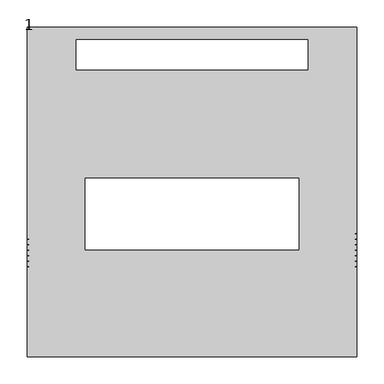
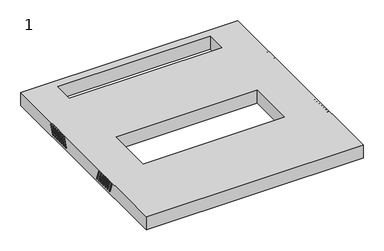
"""IFC4 building model written with IfcOpenShell, lengths in millimetres: proxy geometry, 1."""

from ifc_helpers import new_model, si_unit, frame, origin, place, context, project, spatial, polyline, circle_curve, source, transform, mapped, element, save
from ifc_brep_helpers import plane_surface, revolved_surface, advanced_brep


def proxy_1_6b43263f(model_context):
    return source(origin(), model_context, "Body", "AdvancedBrep", [
        advanced_brep(
        [(298.0, -135.8, 610.7479679), (298.0, -126.9074763, 586.3159597), (298.0, -123.1487058, 587.6840403), (298.0, -132.0412295, 612.1160484), (298.0, -125.8, 610.7479679), (298.0, -116.9074763, 586.3159597), (298.0, -113.1487058, 587.6840403), (298.0, -122.0412295, 612.1160484), (298.0, -115.8, 610.7479679), (298.0, -106.9074763, 586.3159597), (298.0, -103.1487058, 587.6840403), (298.0, -112.0412295, 612.1160484), (298.0, -105.8, 610.7479679), (298.0, -96.9074763, 586.3159597), (298.0, -93.1487058, 587.6840403), (298.0, -102.0412295, 612.1160484), (298.0, -95.8, 610.7479679), (298.0, -86.9074763, 586.3159597), (298.0, -83.1487058, 587.6840403), (298.0, -92.0412295, 612.1160484), (298.0, -85.8, 610.7479679), (298.0, -76.9074763, 586.3159597), (298.0, -73.1487058, 587.6840403), (298.0, -82.0412295, 612.1160484), (298.0, -75.8, 610.7479679), (298.0, -66.9074763, 586.3159597), (298.0, -63.1487058, 587.6840403), (298.0, -72.0412295, 612.1160484), (300.0, -132.0412295, 612.1160484), (300.0, -135.8, 610.7479679), (300.0, -123.1487058, 587.6840403), (300.0, -126.9074763, 586.3159597), (300.0, -122.0412295, 612.1160484), (300.0, -125.8, 610.7479679), (300.0, -113.1487058, 587.6840403), (300.0, -116.9074763, 586.3159597), (300.0, -112.0412295, 612.1160484), (300.0, -115.8, 610.7479679), (300.0, -103.1487058, 587.6840403), (300.0, -106.9074763, 586.3159597), (300.0, -102.0412295, 612.1160484), (300.0, -105.8, 610.7479679), (300.0, -93.1487058, 587.6840403), (300.0, -96.9074763, 586.3159597), (300.0, -92.0412295, 612.1160484), (300.0, -95.8, 610.7479679), (300.0, -83.1487058, 587.6840403), (300.0, -86.9074763, 586.3159597), (300.0, -82.0412295, 612.1160484), (300.0, -85.8, 610.7479679), (300.0, -73.1487058, 587.6840403), (300.0, -76.9074763, 586.3159597), (300.0, -72.0412295, 612.1160484), (300.0, -75.8, 610.7479679), (300.0, -63.1487058, 587.6840403), (300.0, -66.9074763, 586.3159597), (300.0, 300.0, 579.0), (300.0, -300.0, 579.0), (-300.0, -300.0, 579.0), (-300.0, 300.0, 579.0), (-211.0, 222.5, 579.0), (211.0, 222.5, 579.0), (211.0, 277.5, 579.0), (-211.0, 277.5, 579.0), (195.0, 25.0, 579.0), (-195.0, 25.0, 579.0), (-195.0, -105.0, 579.0), (195.0, -105.0, 579.0), (300.0, 300.0, 617.0), (-300.0, 300.0, 617.0), (-300.0, -300.0, 617.0), (300.0, -300.0, 617.0), (-211.0, 222.5, 617.0), (-211.0, 277.5, 617.0), (211.0, 277.5, 617.0), (211.0, 222.5, 617.0), (195.0, 25.0, 617.0), (195.0, -105.0, 617.0), (-195.0, -105.0, 617.0), (-195.0, 25.0, 617.0), (-300.0, -66.9074763, 586.3159597), (-300.0, -63.1487058, 587.6840403), (-300.0, -72.0412295, 612.1160484), (-300.0, -75.8, 610.7479679), (-300.0, -76.9074763, 586.3159597), (-300.0, -73.1487058, 587.6840403), (-300.0, -82.0412295, 612.1160484), (-300.0, -85.8, 610.7479679), (-300.0, -86.9074763, 586.3159597), (-300.0, -83.1487058, 587.6840403), (-300.0, -92.0412295, 612.1160484), (-300.0, -95.8, 610.7479679), (-300.0, -96.9074763, 586.3159597), (-300.0, -93.1487058, 587.6840403), (-300.0, -102.0412295, 612.1160484), (-300.0, -105.8, 610.7479679), (-300.0, -106.9074763, 586.3159597), (-300.0, -103.1487058, 587.6840403), (-300.0, -112.0412295, 612.1160484), (-300.0, -115.8, 610.7479679), (-300.0, -116.9074763, 586.3159597), (-300.0, -113.1487058, 587.6840403), (-300.0, -122.0412295, 612.1160484), (-300.0, -125.8, 610.7479679), (-300.0, -126.9074763, 586.3159597), (-300.0, -123.1487058, 587.6840403), (-300.0, -132.0412295, 612.1160484), (-300.0, -135.8, 610.7479679), (-300.0, 96.0, 610.7479679), (-300.0, 92.2412295, 612.1160484), (-300.0, 83.3487058, 587.6840403), (-300.0, 87.1074763, 586.3159597), (-300.0, 106.0, 610.7479679), (-300.0, 102.2412295, 612.1160484), (-300.0, 93.3487058, 587.6840403), (-300.0, 97.1074763, 586.3159597), (-300.0, 116.0, 610.7479679), (-300.0, 112.2412295, 612.1160484), (-300.0, 103.3487058, 587.6840403), (-300.0, 107.1074763, 586.3159597), (-300.0, 126.0, 610.7479679), (-300.0, 122.2412295, 612.1160484), (-300.0, 113.3487058, 587.6840403), (-300.0, 117.1074763, 586.3159597), (-300.0, 136.0, 610.7479679), (-300.0, 132.2412295, 612.1160484), (-300.0, 123.3487058, 587.6840403), (-300.0, 127.1074763, 586.3159597), (-300.0, 146.0, 610.7479679), (-300.0, 142.2412295, 612.1160484), (-300.0, 133.3487058, 587.6840403), (-300.0, 137.1074763, 586.3159597), (-300.0, 156.0, 610.7479679), (-300.0, 152.2412295, 612.1160484), (-300.0, 143.3487058, 587.6840403), (-300.0, 147.1074763, 586.3159597), (300.0, 152.2412295, 612.1160484), (300.0, 156.0, 610.7479679), (300.0, 147.1074763, 586.3159597), (300.0, 143.3487058, 587.6840403), (300.0, 142.2412295, 612.1160484), (300.0, 146.0, 610.7479679), (300.0, 137.1074763, 586.3159597), (300.0, 133.3487058, 587.6840403), (300.0, 132.2412295, 612.1160484), (300.0, 136.0, 610.7479679), (300.0, 127.1074763, 586.3159597), (300.0, 123.3487058, 587.6840403), (300.0, 122.2412295, 612.1160484), (300.0, 126.0, 610.7479679), (300.0, 117.1074763, 586.3159597), (300.0, 113.3487058, 587.6840403), (300.0, 112.2412295, 612.1160484), (300.0, 116.0, 610.7479679), (300.0, 107.1074763, 586.3159597), (300.0, 103.3487058, 587.6840403), (300.0, 102.2412295, 612.1160484), (300.0, 106.0, 610.7479679), (300.0, 97.1074763, 586.3159597), (300.0, 93.3487058, 587.6840403), (300.0, 92.2412295, 612.1160484), (300.0, 96.0, 610.7479679), (300.0, 87.1074763, 586.3159597), (300.0, 83.3487058, 587.6840403), (298.0, 156.0, 610.7479679), (298.0, 152.2412295, 612.1160484), (298.0, 143.3487058, 587.6840403), (298.0, 147.1074763, 586.3159597), (298.0, 146.0, 610.7479679), (298.0, 142.2412295, 612.1160484), (298.0, 133.3487058, 587.6840403), (298.0, 137.1074763, 586.3159597), (298.0, 136.0, 610.7479679), (298.0, 132.2412295, 612.1160484), (298.0, 123.3487058, 587.6840403), (298.0, 127.1074763, 586.3159597), (298.0, 126.0, 610.7479679), (298.0, 122.2412295, 612.1160484), (298.0, 113.3487058, 587.6840403), (298.0, 117.1074763, 586.3159597), (298.0, 116.0, 610.7479679), (298.0, 112.2412295, 612.1160484), (298.0, 103.3487058, 587.6840403), (298.0, 107.1074763, 586.3159597), (298.0, 106.0, 610.7479679), (298.0, 102.2412295, 612.1160484), (298.0, 93.3487058, 587.6840403), (298.0, 97.1074763, 586.3159597), (298.0, 96.0, 610.7479679), (298.0, 92.2412295, 612.1160484), (298.0, 83.3487058, 587.6840403), (298.0, 87.1074763, 586.3159597), (-298.0, -63.1487058, 587.6840403), (-298.0, -66.9074763, 586.3159597), (-298.0, -75.8, 610.7479679), (-298.0, -72.0412295, 612.1160484), (-298.0, -73.1487058, 587.6840403), (-298.0, -76.9074763, 586.3159597), (-298.0, -85.8, 610.7479679), (-298.0, -82.0412295, 612.1160484), (-298.0, -83.1487058, 587.6840403), (-298.0, -86.9074763, 586.3159597), (-298.0, -95.8, 610.7479679), (-298.0, -92.0412295, 612.1160484), (-298.0, -93.1487058, 587.6840403), (-298.0, -96.9074763, 586.3159597), (-298.0, -105.8, 610.7479679), (-298.0, -102.0412295, 612.1160484), (-298.0, -103.1487058, 587.6840403), (-298.0, -106.9074763, 586.3159597), (-298.0, -115.8, 610.7479679), (-298.0, -112.0412295, 612.1160484), (-298.0, -113.1487058, 587.6840403), (-298.0, -116.9074763, 586.3159597), (-298.0, -125.8, 610.7479679), (-298.0, -122.0412295, 612.1160484), (-298.0, -123.1487058, 587.6840403), (-298.0, -126.9074763, 586.3159597), (-298.0, -135.8, 610.7479679), (-298.0, -132.0412295, 612.1160484), (-298.0, 92.2412295, 612.1160484), (-298.0, 96.0, 610.7479679), (-298.0, 87.1074763, 586.3159597), (-298.0, 83.3487058, 587.6840403), (-298.0, 102.2412295, 612.1160484), (-298.0, 106.0, 610.7479679), (-298.0, 97.1074763, 586.3159597), (-298.0, 93.3487058, 587.6840403), (-298.0, 112.2412295, 612.1160484), (-298.0, 116.0, 610.7479679), (-298.0, 107.1074763, 586.3159597), (-298.0, 103.3487058, 587.6840403), (-298.0, 122.2412295, 612.1160484), (-298.0, 126.0, 610.7479679), (-298.0, 117.1074763, 586.3159597), (-298.0, 113.3487058, 587.6840403), (-298.0, 132.2412295, 612.1160484), (-298.0, 136.0, 610.7479679), (-298.0, 127.1074763, 586.3159597), (-298.0, 123.3487058, 587.6840403), (-298.0, 142.2412295, 612.1160484), (-298.0, 146.0, 610.7479679), (-298.0, 137.1074763, 586.3159597), (-298.0, 133.3487058, 587.6840403), (-298.0, 152.2412295, 612.1160484), (-298.0, 156.0, 610.7479679), (-298.0, 147.1074763, 586.3159597), (-298.0, 143.3487058, 587.6840403)],
        [
            (0, 1),
            (1, 2, circle_curve(frame((298.0, -125.028091, 587.0), z_axis=(1.0, 0.0, 0.0), x_axis=(0.0, -1.0, 0.0)), 2.0)),
            (2, 3),
            (3, 0, circle_curve(frame((298.0, -133.9206148, 611.4320081), z_axis=(1.0, 0.0, 0.0), x_axis=(0.0, -1.0, 0.0)), 2.0)),
            (4, 5),
            (5, 6, circle_curve(frame((298.0, -115.028091, 587.0), z_axis=(1.0, 0.0, 0.0), x_axis=(0.0, -1.0, 0.0)), 2.0)),
            (6, 7),
            (7, 4, circle_curve(frame((298.0, -123.9206148, 611.4320081), z_axis=(1.0, 0.0, 0.0), x_axis=(0.0, -1.0, 0.0)), 2.0)),
            (8, 9),
            (9, 10, circle_curve(frame((298.0, -105.028091, 587.0), z_axis=(1.0, 0.0, 0.0), x_axis=(0.0, -1.0, 0.0)), 2.0)),
            (10, 11),
            (11, 8, circle_curve(frame((298.0, -113.9206148, 611.4320081), z_axis=(1.0, 0.0, 0.0), x_axis=(0.0, -1.0, 0.0)), 2.0)),
            (12, 13),
            (13, 14, circle_curve(frame((298.0, -95.028091, 587.0), z_axis=(1.0, 0.0, 0.0), x_axis=(0.0, -1.0, 0.0)), 2.0)),
            (14, 15),
            (15, 12, circle_curve(frame((298.0, -103.9206148, 611.4320081), z_axis=(1.0, 0.0, 0.0), x_axis=(0.0, -1.0, 0.0)), 2.0)),
            (16, 17),
            (17, 18, circle_curve(frame((298.0, -85.028091, 587.0), z_axis=(1.0, 0.0, 0.0), x_axis=(0.0, -1.0, 0.0)), 2.0)),
            (18, 19),
            (19, 16, circle_curve(frame((298.0, -93.9206148, 611.4320081), z_axis=(1.0, 0.0, 0.0), x_axis=(0.0, -1.0, 0.0)), 2.0)),
            (20, 21),
            (21, 22, circle_curve(frame((298.0, -75.028091, 587.0), z_axis=(1.0, 0.0, 0.0), x_axis=(0.0, -1.0, 0.0)), 2.0)),
            (22, 23),
            (23, 20, circle_curve(frame((298.0, -83.9206148, 611.4320081), z_axis=(1.0, 0.0, 0.0), x_axis=(0.0, -1.0, 0.0)), 2.0)),
            (24, 25),
            (25, 26, circle_curve(frame((298.0, -65.028091, 587.0), z_axis=(1.0, 0.0, 0.0), x_axis=(0.0, -1.0, 0.0)), 2.0)),
            (26, 27),
            (27, 24, circle_curve(frame((298.0, -73.9206148, 611.4320081), z_axis=(1.0, 0.0, 0.0), x_axis=(0.0, -1.0, 0.0)), 2.0)),
            (3, 28),
            (28, 29, circle_curve(frame((300.0, -133.9206148, 611.4320081), z_axis=(1.0, 0.0, 0.0), x_axis=(0.0, -1.0, 0.0)), 2.0)),
            (29, 0),
            (2, 30),
            (30, 28),
            (1, 31),
            (31, 30, circle_curve(frame((300.0, -125.028091, 587.0), z_axis=(1.0, 0.0, 0.0), x_axis=(0.0, -1.0, 0.0)), 2.0)),
            (29, 31),
            (7, 32),
            (32, 33, circle_curve(frame((300.0, -123.9206148, 611.4320081), z_axis=(1.0, 0.0, 0.0), x_axis=(0.0, -1.0, 0.0)), 2.0)),
            (33, 4),
            (6, 34),
            (34, 32),
            (5, 35),
            (35, 34, circle_curve(frame((300.0, -115.028091, 587.0), z_axis=(1.0, 0.0, 0.0), x_axis=(0.0, -1.0, 0.0)), 2.0)),
            (33, 35),
            (11, 36),
            (36, 37, circle_curve(frame((300.0, -113.9206148, 611.4320081), z_axis=(1.0, 0.0, 0.0), x_axis=(0.0, -1.0, 0.0)), 2.0)),
            (37, 8),
            (10, 38),
            (38, 36),
            (9, 39),
            (39, 38, circle_curve(frame((300.0, -105.028091, 587.0), z_axis=(1.0, 0.0, 0.0), x_axis=(0.0, -1.0, 0.0)), 2.0)),
            (37, 39),
            (15, 40),
            (40, 41, circle_curve(frame((300.0, -103.9206148, 611.4320081), z_axis=(1.0, 0.0, 0.0), x_axis=(0.0, -1.0, 0.0)), 2.0)),
            (41, 12),
            (14, 42),
            (42, 40),
            (13, 43),
            (43, 42, circle_curve(frame((300.0, -95.028091, 587.0), z_axis=(1.0, 0.0, 0.0), x_axis=(0.0, -1.0, 0.0)), 2.0)),
            (41, 43),
            (19, 44),
            (44, 45, circle_curve(frame((300.0, -93.9206148, 611.4320081), z_axis=(1.0, 0.0, 0.0), x_axis=(0.0, -1.0, 0.0)), 2.0)),
            (45, 16),
            (18, 46),
            (46, 44),
            (17, 47),
            (47, 46, circle_curve(frame((300.0, -85.028091, 587.0), z_axis=(1.0, 0.0, 0.0), x_axis=(0.0, -1.0, 0.0)), 2.0)),
            (45, 47),
            (23, 48),
            (48, 49, circle_curve(frame((300.0, -83.9206148, 611.4320081), z_axis=(1.0, 0.0, 0.0), x_axis=(0.0, -1.0, 0.0)), 2.0)),
            (49, 20),
            (22, 50),
            (50, 48),
            (21, 51),
            (51, 50, circle_curve(frame((300.0, -75.028091, 587.0), z_axis=(1.0, 0.0, 0.0), x_axis=(0.0, -1.0, 0.0)), 2.0)),
            (49, 51),
            (27, 52),
            (52, 53, circle_curve(frame((300.0, -73.9206148, 611.4320081), z_axis=(1.0, 0.0, 0.0), x_axis=(0.0, -1.0, 0.0)), 2.0)),
            (53, 24),
            (26, 54),
            (54, 52),
            (25, 55),
            (55, 54, circle_curve(frame((300.0, -65.028091, 587.0), z_axis=(1.0, 0.0, 0.0), x_axis=(0.0, -1.0, 0.0)), 2.0)),
            (53, 55),
            (56, 57),
            (57, 58),
            (58, 59),
            (59, 56),
            (60, 61),
            (61, 62),
            (62, 63),
            (63, 60),
            (64, 65),
            (65, 66),
            (66, 67),
            (67, 64),
            (68, 69),
            (69, 70),
            (70, 71),
            (71, 68),
            (72, 73),
            (73, 74),
            (74, 75),
            (75, 72),
            (76, 77),
            (77, 78),
            (78, 79),
            (79, 76),
            (59, 69),
            (68, 56),
            (58, 70),
            (80, 81, circle_curve(frame((-300.0, -65.028091, 587.0), z_axis=(1.0, 0.0, 0.0), x_axis=(0.0, 1.0, 0.0)), 2.0)),
            (81, 82),
            (82, 83, circle_curve(frame((-300.0, -73.9206148, 611.4320081), z_axis=(1.0, 0.0, 0.0), x_axis=(0.0, 1.0, 0.0)), 2.0)),
            (83, 80),
            (84, 85, circle_curve(frame((-300.0, -75.028091, 587.0), z_axis=(1.0, 0.0, 0.0), x_axis=(0.0, 1.0, 0.0)), 2.0)),
            (85, 86),
            (86, 87, circle_curve(frame((-300.0, -83.9206148, 611.4320081), z_axis=(1.0, 0.0, 0.0), x_axis=(0.0, 1.0, 0.0)), 2.0)),
            (87, 84),
            (88, 89, circle_curve(frame((-300.0, -85.028091, 587.0), z_axis=(1.0, 0.0, 0.0), x_axis=(0.0, 1.0, 0.0)), 2.0)),
            (89, 90),
            (90, 91, circle_curve(frame((-300.0, -93.9206148, 611.4320081), z_axis=(1.0, 0.0, 0.0), x_axis=(0.0, 1.0, 0.0)), 2.0)),
            (91, 88),
            (92, 93, circle_curve(frame((-300.0, -95.028091, 587.0), z_axis=(1.0, 0.0, 0.0), x_axis=(0.0, 1.0, 0.0)), 2.0)),
            (93, 94),
            (94, 95, circle_curve(frame((-300.0, -103.9206148, 611.4320081), z_axis=(1.0, 0.0, 0.0), x_axis=(0.0, 1.0, 0.0)), 2.0)),
            (95, 92),
            (96, 97, circle_curve(frame((-300.0, -105.028091, 587.0), z_axis=(1.0, 0.0, 0.0), x_axis=(0.0, 1.0, 0.0)), 2.0)),
            (97, 98),
            (98, 99, circle_curve(frame((-300.0, -113.9206148, 611.4320081), z_axis=(1.0, 0.0, 0.0), x_axis=(0.0, 1.0, 0.0)), 2.0)),
            (99, 96),
            (100, 101, circle_curve(frame((-300.0, -115.028091, 587.0), z_axis=(1.0, 0.0, 0.0), x_axis=(0.0, 1.0, 0.0)), 2.0)),
            (101, 102),
            (102, 103, circle_curve(frame((-300.0, -123.9206148, 611.4320081), z_axis=(1.0, 0.0, 0.0), x_axis=(0.0, 1.0, 0.0)), 2.0)),
            (103, 100),
            (104, 105, circle_curve(frame((-300.0, -125.028091, 587.0), z_axis=(1.0, 0.0, 0.0), x_axis=(0.0, 1.0, 0.0)), 2.0)),
            (105, 106),
            (106, 107, circle_curve(frame((-300.0, -133.9206148, 611.4320081), z_axis=(1.0, 0.0, 0.0), x_axis=(0.0, 1.0, 0.0)), 2.0)),
            (107, 104),
            (108, 109, circle_curve(frame((-300.0, 94.1206148, 611.4320081), z_axis=(1.0, 0.0, 0.0), x_axis=(0.0, 1.0, 0.0)), 2.0)),
            (109, 110),
            (110, 111, circle_curve(frame((-300.0, 85.228091, 587.0), z_axis=(1.0, 0.0, 0.0), x_axis=(0.0, 1.0, 0.0)), 2.0)),
            (111, 108),
            (112, 113, circle_curve(frame((-300.0, 104.1206148, 611.4320081), z_axis=(1.0, 0.0, 0.0), x_axis=(0.0, 1.0, 0.0)), 2.0)),
            (113, 114),
            (114, 115, circle_curve(frame((-300.0, 95.228091, 587.0), z_axis=(1.0, 0.0, 0.0), x_axis=(0.0, 1.0, 0.0)), 2.0)),
            (115, 112),
            (116, 117, circle_curve(frame((-300.0, 114.1206148, 611.4320081), z_axis=(1.0, 0.0, 0.0), x_axis=(0.0, 1.0, 0.0)), 2.0)),
            (117, 118),
            (118, 119, circle_curve(frame((-300.0, 105.228091, 587.0), z_axis=(1.0, 0.0, 0.0), x_axis=(0.0, 1.0, 0.0)), 2.0)),
            (119, 116),
            (120, 121, circle_curve(frame((-300.0, 124.1206148, 611.4320081), z_axis=(1.0, 0.0, 0.0), x_axis=(0.0, 1.0, 0.0)), 2.0)),
            (121, 122),
            (122, 123, circle_curve(frame((-300.0, 115.228091, 587.0), z_axis=(1.0, 0.0, 0.0), x_axis=(0.0, 1.0, 0.0)), 2.0)),
            (123, 120),
            (124, 125, circle_curve(frame((-300.0, 134.1206148, 611.4320081), z_axis=(1.0, 0.0, 0.0), x_axis=(0.0, 1.0, 0.0)), 2.0)),
            (125, 126),
            (126, 127, circle_curve(frame((-300.0, 125.228091, 587.0), z_axis=(1.0, 0.0, 0.0), x_axis=(0.0, 1.0, 0.0)), 2.0)),
            (127, 124),
            (128, 129, circle_curve(frame((-300.0, 144.1206148, 611.4320081), z_axis=(1.0, 0.0, 0.0), x_axis=(0.0, 1.0, 0.0)), 2.0)),
            (129, 130),
            (130, 131, circle_curve(frame((-300.0, 135.228091, 587.0), z_axis=(1.0, 0.0, 0.0), x_axis=(0.0, 1.0, 0.0)), 2.0)),
            (131, 128),
            (132, 133, circle_curve(frame((-300.0, 154.1206148, 611.4320081), z_axis=(1.0, 0.0, 0.0), x_axis=(0.0, 1.0, 0.0)), 2.0)),
            (133, 134),
            (134, 135, circle_curve(frame((-300.0, 145.228091, 587.0), z_axis=(1.0, 0.0, 0.0), x_axis=(0.0, 1.0, 0.0)), 2.0)),
            (135, 132),
            (57, 71),
            (136, 137, circle_curve(frame((300.0, 154.1206148, 611.4320081), z_axis=(-1.0, 0.0, 0.0), x_axis=(0.0, 1.0, 0.0)), 2.0)),
            (137, 138),
            (138, 139, circle_curve(frame((300.0, 145.228091, 587.0), z_axis=(-1.0, 0.0, 0.0), x_axis=(0.0, 1.0, 0.0)), 2.0)),
            (139, 136),
            (140, 141, circle_curve(frame((300.0, 144.1206148, 611.4320081), z_axis=(-1.0, 0.0, 0.0), x_axis=(0.0, 1.0, 0.0)), 2.0)),
            (141, 142),
            (142, 143, circle_curve(frame((300.0, 135.228091, 587.0), z_axis=(-1.0, 0.0, 0.0), x_axis=(0.0, 1.0, 0.0)), 2.0)),
            (143, 140),
            (144, 145, circle_curve(frame((300.0, 134.1206148, 611.4320081), z_axis=(-1.0, 0.0, 0.0), x_axis=(0.0, 1.0, 0.0)), 2.0)),
            (145, 146),
            (146, 147, circle_curve(frame((300.0, 125.228091, 587.0), z_axis=(-1.0, 0.0, 0.0), x_axis=(0.0, 1.0, 0.0)), 2.0)),
            (147, 144),
            (148, 149, circle_curve(frame((300.0, 124.1206148, 611.4320081), z_axis=(-1.0, 0.0, 0.0), x_axis=(0.0, 1.0, 0.0)), 2.0)),
            (149, 150),
            (150, 151, circle_curve(frame((300.0, 115.228091, 587.0), z_axis=(-1.0, 0.0, 0.0), x_axis=(0.0, 1.0, 0.0)), 2.0)),
            (151, 148),
            (152, 153, circle_curve(frame((300.0, 114.1206148, 611.4320081), z_axis=(-1.0, 0.0, 0.0), x_axis=(0.0, 1.0, 0.0)), 2.0)),
            (153, 154),
            (154, 155, circle_curve(frame((300.0, 105.228091, 587.0), z_axis=(-1.0, 0.0, 0.0), x_axis=(0.0, 1.0, 0.0)), 2.0)),
            (155, 152),
            (156, 157, circle_curve(frame((300.0, 104.1206148, 611.4320081), z_axis=(-1.0, 0.0, 0.0), x_axis=(0.0, 1.0, 0.0)), 2.0)),
            (157, 158),
            (158, 159, circle_curve(frame((300.0, 95.228091, 587.0), z_axis=(-1.0, 0.0, 0.0), x_axis=(0.0, 1.0, 0.0)), 2.0)),
            (159, 156),
            (160, 161, circle_curve(frame((300.0, 94.1206148, 611.4320081), z_axis=(-1.0, 0.0, 0.0), x_axis=(0.0, 1.0, 0.0)), 2.0)),
            (161, 162),
            (162, 163, circle_curve(frame((300.0, 85.228091, 587.0), z_axis=(-1.0, 0.0, 0.0), x_axis=(0.0, 1.0, 0.0)), 2.0)),
            (163, 160),
            (63, 73),
            (72, 60),
            (62, 74),
            (61, 75),
            (67, 77),
            (76, 64),
            (66, 78),
            (65, 79),
            (164, 165, circle_curve(frame((298.0, 154.1206148, 611.4320081), z_axis=(1.0, 0.0, 0.0), x_axis=(0.0, 1.0, 0.0)), 2.0)),
            (165, 166),
            (166, 167, circle_curve(frame((298.0, 145.228091, 587.0), z_axis=(1.0, 0.0, 0.0), x_axis=(0.0, 1.0, 0.0)), 2.0)),
            (167, 164),
            (168, 169, circle_curve(frame((298.0, 144.1206148, 611.4320081), z_axis=(1.0, 0.0, 0.0), x_axis=(0.0, 1.0, 0.0)), 2.0)),
            (169, 170),
            (170, 171, circle_curve(frame((298.0, 135.228091, 587.0), z_axis=(1.0, 0.0, 0.0), x_axis=(0.0, 1.0, 0.0)), 2.0)),
            (171, 168),
            (172, 173, circle_curve(frame((298.0, 134.1206148, 611.4320081), z_axis=(1.0, 0.0, 0.0), x_axis=(0.0, 1.0, 0.0)), 2.0)),
            (173, 174),
            (174, 175, circle_curve(frame((298.0, 125.228091, 587.0), z_axis=(1.0, 0.0, 0.0), x_axis=(0.0, 1.0, 0.0)), 2.0)),
            (175, 172),
            (176, 177, circle_curve(frame((298.0, 124.1206148, 611.4320081), z_axis=(1.0, 0.0, 0.0), x_axis=(0.0, 1.0, 0.0)), 2.0)),
            (177, 178),
            (178, 179, circle_curve(frame((298.0, 115.228091, 587.0), z_axis=(1.0, 0.0, 0.0), x_axis=(0.0, 1.0, 0.0)), 2.0)),
            (179, 176),
            (180, 181, circle_curve(frame((298.0, 114.1206148, 611.4320081), z_axis=(1.0, 0.0, 0.0), x_axis=(0.0, 1.0, 0.0)), 2.0)),
            (181, 182),
            (182, 183, circle_curve(frame((298.0, 105.228091, 587.0), z_axis=(1.0, 0.0, 0.0), x_axis=(0.0, 1.0, 0.0)), 2.0)),
            (183, 180),
            (184, 185, circle_curve(frame((298.0, 104.1206148, 611.4320081), z_axis=(1.0, 0.0, 0.0), x_axis=(0.0, 1.0, 0.0)), 2.0)),
            (185, 186),
            (186, 187, circle_curve(frame((298.0, 95.228091, 587.0), z_axis=(1.0, 0.0, 0.0), x_axis=(0.0, 1.0, 0.0)), 2.0)),
            (187, 184),
            (188, 189, circle_curve(frame((298.0, 94.1206148, 611.4320081), z_axis=(1.0, 0.0, 0.0), x_axis=(0.0, 1.0, 0.0)), 2.0)),
            (189, 190),
            (190, 191, circle_curve(frame((298.0, 85.228091, 587.0), z_axis=(1.0, 0.0, 0.0), x_axis=(0.0, 1.0, 0.0)), 2.0)),
            (191, 188),
            (164, 137),
            (136, 165),
            (139, 166),
            (138, 167),
            (168, 141),
            (140, 169),
            (143, 170),
            (142, 171),
            (172, 145),
            (144, 173),
            (147, 174),
            (146, 175),
            (176, 149),
            (148, 177),
            (151, 178),
            (150, 179),
            (180, 153),
            (152, 181),
            (155, 182),
            (154, 183),
            (184, 157),
            (156, 185),
            (159, 186),
            (158, 187),
            (188, 161),
            (160, 189),
            (163, 190),
            (162, 191),
            (192, 193, circle_curve(frame((-298.0, -65.028091, 587.0), z_axis=(-1.0, 0.0, 0.0), x_axis=(0.0, 1.0, 0.0)), 2.0)),
            (193, 194),
            (194, 195, circle_curve(frame((-298.0, -73.9206148, 611.4320081), z_axis=(-1.0, 0.0, 0.0), x_axis=(0.0, 1.0, 0.0)), 2.0)),
            (195, 192),
            (196, 197, circle_curve(frame((-298.0, -75.028091, 587.0), z_axis=(-1.0, 0.0, 0.0), x_axis=(0.0, 1.0, 0.0)), 2.0)),
            (197, 198),
            (198, 199, circle_curve(frame((-298.0, -83.9206148, 611.4320081), z_axis=(-1.0, 0.0, 0.0), x_axis=(0.0, 1.0, 0.0)), 2.0)),
            (199, 196),
            (200, 201, circle_curve(frame((-298.0, -85.028091, 587.0), z_axis=(-1.0, 0.0, 0.0), x_axis=(0.0, 1.0, 0.0)), 2.0)),
            (201, 202),
            (202, 203, circle_curve(frame((-298.0, -93.9206148, 611.4320081), z_axis=(-1.0, 0.0, 0.0), x_axis=(0.0, 1.0, 0.0)), 2.0)),
            (203, 200),
            (204, 205, circle_curve(frame((-298.0, -95.028091, 587.0), z_axis=(-1.0, 0.0, 0.0), x_axis=(0.0, 1.0, 0.0)), 2.0)),
            (205, 206),
            (206, 207, circle_curve(frame((-298.0, -103.9206148, 611.4320081), z_axis=(-1.0, 0.0, 0.0), x_axis=(0.0, 1.0, 0.0)), 2.0)),
            (207, 204),
            (208, 209, circle_curve(frame((-298.0, -105.028091, 587.0), z_axis=(-1.0, 0.0, 0.0), x_axis=(0.0, 1.0, 0.0)), 2.0)),
            (209, 210),
            (210, 211, circle_curve(frame((-298.0, -113.9206148, 611.4320081), z_axis=(-1.0, 0.0, 0.0), x_axis=(0.0, 1.0, 0.0)), 2.0)),
            (211, 208),
            (212, 213, circle_curve(frame((-298.0, -115.028091, 587.0), z_axis=(-1.0, 0.0, 0.0), x_axis=(0.0, 1.0, 0.0)), 2.0)),
            (213, 214),
            (214, 215, circle_curve(frame((-298.0, -123.9206148, 611.4320081), z_axis=(-1.0, 0.0, 0.0), x_axis=(0.0, 1.0, 0.0)), 2.0)),
            (215, 212),
            (216, 217, circle_curve(frame((-298.0, -125.028091, 587.0), z_axis=(-1.0, 0.0, 0.0), x_axis=(0.0, 1.0, 0.0)), 2.0)),
            (217, 218),
            (218, 219, circle_curve(frame((-298.0, -133.9206148, 611.4320081), z_axis=(-1.0, 0.0, 0.0), x_axis=(0.0, 1.0, 0.0)), 2.0)),
            (219, 216),
            (192, 81),
            (80, 193),
            (83, 194),
            (82, 195),
            (196, 85),
            (84, 197),
            (87, 198),
            (86, 199),
            (200, 89),
            (88, 201),
            (91, 202),
            (90, 203),
            (204, 93),
            (92, 205),
            (95, 206),
            (94, 207),
            (208, 97),
            (96, 209),
            (99, 210),
            (98, 211),
            (212, 101),
            (100, 213),
            (103, 214),
            (102, 215),
            (216, 105),
            (104, 217),
            (107, 218),
            (106, 219),
            (220, 221, circle_curve(frame((-298.0, 94.1206148, 611.4320081), z_axis=(-1.0, 0.0, 0.0), x_axis=(0.0, 1.0, 0.0)), 2.0)),
            (221, 222),
            (222, 223, circle_curve(frame((-298.0, 85.228091, 587.0), z_axis=(-1.0, 0.0, 0.0), x_axis=(0.0, 1.0, 0.0)), 2.0)),
            (223, 220),
            (224, 225, circle_curve(frame((-298.0, 104.1206148, 611.4320081), z_axis=(-1.0, 0.0, 0.0), x_axis=(0.0, 1.0, 0.0)), 2.0)),
            (225, 226),
            (226, 227, circle_curve(frame((-298.0, 95.228091, 587.0), z_axis=(-1.0, 0.0, 0.0), x_axis=(0.0, 1.0, 0.0)), 2.0)),
            (227, 224),
            (228, 229, circle_curve(frame((-298.0, 114.1206148, 611.4320081), z_axis=(-1.0, 0.0, 0.0), x_axis=(0.0, 1.0, 0.0)), 2.0)),
            (229, 230),
            (230, 231, circle_curve(frame((-298.0, 105.228091, 587.0), z_axis=(-1.0, 0.0, 0.0), x_axis=(0.0, 1.0, 0.0)), 2.0)),
            (231, 228),
            (232, 233, circle_curve(frame((-298.0, 124.1206148, 611.4320081), z_axis=(-1.0, 0.0, 0.0), x_axis=(0.0, 1.0, 0.0)), 2.0)),
            (233, 234),
            (234, 235, circle_curve(frame((-298.0, 115.228091, 587.0), z_axis=(-1.0, 0.0, 0.0), x_axis=(0.0, 1.0, 0.0)), 2.0)),
            (235, 232),
            (236, 237, circle_curve(frame((-298.0, 134.1206148, 611.4320081), z_axis=(-1.0, 0.0, 0.0), x_axis=(0.0, 1.0, 0.0)), 2.0)),
            (237, 238),
            (238, 239, circle_curve(frame((-298.0, 125.228091, 587.0), z_axis=(-1.0, 0.0, 0.0), x_axis=(0.0, 1.0, 0.0)), 2.0)),
            (239, 236),
            (240, 241, circle_curve(frame((-298.0, 144.1206148, 611.4320081), z_axis=(-1.0, 0.0, 0.0), x_axis=(0.0, 1.0, 0.0)), 2.0)),
            (241, 242),
            (242, 243, circle_curve(frame((-298.0, 135.228091, 587.0), z_axis=(-1.0, 0.0, 0.0), x_axis=(0.0, 1.0, 0.0)), 2.0)),
            (243, 240),
            (244, 245, circle_curve(frame((-298.0, 154.1206148, 611.4320081), z_axis=(-1.0, 0.0, 0.0), x_axis=(0.0, 1.0, 0.0)), 2.0)),
            (245, 246),
            (246, 247, circle_curve(frame((-298.0, 145.228091, 587.0), z_axis=(-1.0, 0.0, 0.0), x_axis=(0.0, 1.0, 0.0)), 2.0)),
            (247, 244),
            (220, 109),
            (108, 221),
            (111, 222),
            (110, 223),
            (224, 113),
            (112, 225),
            (115, 226),
            (114, 227),
            (228, 117),
            (116, 229),
            (119, 230),
            (118, 231),
            (232, 121),
            (120, 233),
            (123, 234),
            (122, 235),
            (236, 125),
            (124, 237),
            (127, 238),
            (126, 239),
            (240, 129),
            (128, 241),
            (131, 242),
            (130, 243),
            (244, 133),
            (132, 245),
            (135, 246),
            (134, 247),
        ],
        [
            plane_surface(frame((298.0, -126.9074763, 586.3159597), z_axis=(1.0, 0.0, 0.0), x_axis=(0.0, -0.3420201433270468, 0.9396926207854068))),
            revolved_surface(polyline([(300.0, -135.9206148, 611.4320081), (298.0, -135.9206148, 611.4320081)]), (298.0, -133.9206148, 611.4320081), (1.0, 0.0, 0.0)),
            plane_surface(frame((300.0, -123.1487058, 587.6840403), z_axis=(0.0, -0.9396926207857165, -0.342020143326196), x_axis=(-1.0, 0.0, 0.0))),
            revolved_surface(polyline([(300.0, -127.028091, 587.0), (298.0, -127.028091, 587.0)]), (298.0, -125.028091, 587.0), (1.0, 0.0, 0.0)),
            plane_surface(frame((300.0, -135.8, 610.7479679), z_axis=(0.0, 0.9396926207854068, 0.3420201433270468), x_axis=(-1.0, 0.0, 0.0))),
            revolved_surface(polyline([(300.0, -125.9206148, 611.4320081), (298.0, -125.9206148, 611.4320081)]), (300.0, -123.9206148, 611.4320081), (1.0, 0.0, 0.0)),
            plane_surface(frame((300.0, -113.1487058, 587.6840403), z_axis=(0.0, -0.9396926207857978, -0.3420201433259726), x_axis=(-1.0, 0.0, 0.0))),
            revolved_surface(polyline([(300.0, -117.028091, 587.0), (298.0, -117.028091, 587.0)]), (300.0, -115.028091, 587.0), (1.0, 0.0, 0.0)),
            plane_surface(frame((300.0, -125.8, 610.7479679), z_axis=(0.0, 0.9396926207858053, 0.34202014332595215), x_axis=(-1.0, 0.0, 0.0))),
            revolved_surface(polyline([(300.0, -115.9206148, 611.4320081), (298.0, -115.9206148, 611.4320081)]), (300.0, -113.9206148, 611.4320081), (1.0, 0.0, 0.0)),
            plane_surface(frame((300.0, -103.1487058, 587.6840403), z_axis=(0.0, -0.9396926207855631, -0.34202014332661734), x_axis=(-1.0, 0.0, 0.0))),
            revolved_surface(polyline([(300.0, -107.028091, 587.0), (298.0, -107.028091, 587.0)]), (300.0, -105.028091, 587.0), (1.0, 0.0, 0.0)),
            plane_surface(frame((300.0, -115.8, 610.7479679), z_axis=(0.0, 0.9396926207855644, 0.34202014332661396), x_axis=(-1.0, 0.0, 0.0))),
            revolved_surface(polyline([(300.0, -105.9206148, 611.4320081), (298.0, -105.9206148, 611.4320081)]), (300.0, -103.9206148, 611.4320081), (1.0, 0.0, 0.0)),
            plane_surface(frame((300.0, -93.1487058, 587.6840403), z_axis=(0.0, -0.9396926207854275, -0.34202014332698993), x_axis=(-1.0, 0.0, 0.0))),
            revolved_surface(polyline([(300.0, -97.028091, 587.0), (298.0, -97.028091, 587.0)]), (300.0, -95.028091, 587.0), (1.0, 0.0, 0.0)),
            plane_surface(frame((300.0, -105.8, 610.7479679), z_axis=(0.0, 0.9396926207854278, 0.34202014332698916), x_axis=(-1.0, 0.0, 0.0))),
            revolved_surface(polyline([(300.0, -95.9206148, 611.4320081), (298.0, -95.9206148, 611.4320081)]), (300.0, -93.9206148, 611.4320081), (1.0, 0.0, 0.0)),
            plane_surface(frame((300.0, -83.1487058, 587.6840403), z_axis=(0.0, -0.9396926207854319, -0.3420201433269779), x_axis=(-1.0, 0.0, 0.0))),
            revolved_surface(polyline([(300.0, -87.028091, 587.0), (298.0, -87.028091, 587.0)]), (300.0, -85.028091, 587.0), (1.0, 0.0, 0.0)),
            plane_surface(frame((300.0, -95.8, 610.7479679), z_axis=(0.0, 0.9396926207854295, 0.3420201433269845), x_axis=(-1.0, 0.0, 0.0))),
            revolved_surface(polyline([(300.0, -85.9206148, 611.4320081), (298.0, -85.9206148, 611.4320081)]), (300.0, -83.9206148, 611.4320081), (1.0, 0.0, 0.0)),
            plane_surface(frame((300.0, -73.1487058, 587.6840403), z_axis=(0.0, -0.9396926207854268, -0.342020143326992), x_axis=(-1.0, 0.0, 0.0))),
            revolved_surface(polyline([(300.0, -77.028091, 587.0), (298.0, -77.028091, 587.0)]), (300.0, -75.028091, 587.0), (1.0, 0.0, 0.0)),
            plane_surface(frame((300.0, -85.8, 610.7479679), z_axis=(0.0, 0.9396926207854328, 0.3420201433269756), x_axis=(-1.0, 0.0, 0.0))),
            revolved_surface(polyline([(300.0, -75.9206148, 611.4320081), (298.0, -75.9206148, 611.4320081)]), (300.0, -73.9206148, 611.4320081), (1.0, 0.0, 0.0)),
            plane_surface(frame((300.0, -63.1487058, 587.6840403), z_axis=(0.0, -0.9396926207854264, -0.3420201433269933), x_axis=(-1.0, 0.0, 0.0))),
            revolved_surface(polyline([(300.0, -67.028091, 587.0), (298.0, -67.028091, 587.0)]), (300.0, -65.028091, 587.0), (1.0, 0.0, 0.0)),
            plane_surface(frame((300.0, -75.8, 610.7479679), z_axis=(0.0, 0.9396926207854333, 0.342020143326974), x_axis=(-1.0, 0.0, 0.0))),
            plane_surface(frame((-300.0, 300.0, 579.0), z_axis=(0.0, 0.0, -1.0), x_axis=(1.0, 0.0, 0.0))),
            plane_surface(frame((-300.0, 300.0, 617.0), z_axis=(0.0, 0.0, 1.0), x_axis=(-1.0, 0.0, 0.0))),
            plane_surface(frame((300.0, 300.0, 617.0), z_axis=(0.0, 1.0, 0.0), x_axis=(0.0, 0.0, -1.0))),
            plane_surface(frame((-300.0, 300.0, 617.0), z_axis=(-1.0, 0.0, 0.0), x_axis=(0.0, 0.0, -1.0))),
            plane_surface(frame((-300.0, -300.0, 617.0), z_axis=(0.0, -1.0, 0.0), x_axis=(0.0, 0.0, -1.0))),
            plane_surface(frame((300.0, -300.0, 617.0), z_axis=(1.0, 0.0, 0.0), x_axis=(0.0, 0.0, -1.0))),
            plane_surface(frame((-211.0, 222.5, 617.0), z_axis=(1.0, 0.0, 0.0), x_axis=(0.0, 0.0, -1.0))),
            plane_surface(frame((-211.0, 277.5, 617.0), z_axis=(0.0, -1.0, 0.0), x_axis=(0.0, 0.0, -1.0))),
            plane_surface(frame((211.0, 277.5, 617.0), z_axis=(-1.0, 0.0, 0.0), x_axis=(0.0, 0.0, -1.0))),
            plane_surface(frame((211.0, 222.5, 617.0), z_axis=(0.0, 1.0, 0.0), x_axis=(0.0, 0.0, -1.0))),
            plane_surface(frame((195.0, 25.0, 617.0), z_axis=(-1.0, 0.0, 0.0), x_axis=(0.0, 0.0, -1.0))),
            plane_surface(frame((195.0, -105.0, 617.0), z_axis=(0.0, 1.0, 0.0), x_axis=(0.0, 0.0, -1.0))),
            plane_surface(frame((-195.0, -105.0, 617.0), z_axis=(1.0, 0.0, 0.0), x_axis=(0.0, 0.0, -1.0))),
            plane_surface(frame((-195.0, 25.0, 617.0), z_axis=(0.0, -1.0, 0.0), x_axis=(0.0, 0.0, -1.0))),
            plane_surface(frame((298.0, 156.1206148, 611.4320081), z_axis=(1.0, 0.0, 0.0), x_axis=(0.0, 0.0, -1.0))),
            revolved_surface(polyline([(300.0, 156.1206148, 611.4320081), (298.0, 156.1206148, 611.4320081)]), (298.0, 154.1206148, 611.4320081), (1.0, 0.0, 0.0)),
            plane_surface(frame((300.0, 152.2412295, 612.1160484), z_axis=(0.0, 0.9396926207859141, -0.34202014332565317), x_axis=(-1.0, 0.0, 0.0))),
            revolved_surface(polyline([(300.0, 147.228091, 587.0), (298.0, 147.228091, 587.0)]), (298.0, 145.228091, 587.0), (1.0, 0.0, 0.0)),
            plane_surface(frame((300.0, 147.1074763, 586.3159597), z_axis=(0.0, -0.9396926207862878, 0.34202014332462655), x_axis=(-1.0, 0.0, 0.0))),
            revolved_surface(polyline([(300.0, 146.1206148, 611.4320081), (298.0, 146.1206148, 611.4320081)]), (300.0, 144.1206148, 611.4320081), (1.0, 0.0, 0.0)),
            plane_surface(frame((300.0, 142.2412295, 612.1160484), z_axis=(0.0, 0.9396926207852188, -0.34202014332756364), x_axis=(-1.0, 0.0, 0.0))),
            revolved_surface(polyline([(300.0, 137.228091, 587.0), (298.0, 137.228091, 587.0)]), (300.0, 135.228091, 587.0), (1.0, 0.0, 0.0)),
            plane_surface(frame((300.0, 137.1074763, 586.3159597), z_axis=(0.0, -0.939692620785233, 0.3420201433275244), x_axis=(-1.0, 0.0, 0.0))),
            revolved_surface(polyline([(300.0, 136.1206148, 611.4320081), (298.0, 136.1206148, 611.4320081)]), (300.0, 134.1206148, 611.4320081), (1.0, 0.0, 0.0)),
            plane_surface(frame((300.0, 132.2412295, 612.1160484), z_axis=(0.0, 0.9396926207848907, -0.3420201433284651), x_axis=(-1.0, 0.0, 0.0))),
            revolved_surface(polyline([(300.0, 127.228091, 587.0), (298.0, 127.228091, 587.0)]), (300.0, 125.228091, 587.0), (1.0, 0.0, 0.0)),
            plane_surface(frame((300.0, 127.1074763, 586.3159597), z_axis=(0.0, -0.9396926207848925, 0.3420201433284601), x_axis=(-1.0, 0.0, 0.0))),
            revolved_surface(polyline([(300.0, 126.1206148, 611.4320081), (298.0, 126.1206148, 611.4320081)]), (300.0, 124.1206148, 611.4320081), (1.0, 0.0, 0.0)),
            plane_surface(frame((300.0, 122.2412295, 612.1160484), z_axis=(0.0, 0.9396926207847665, -0.34202014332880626), x_axis=(-1.0, 0.0, 0.0))),
            revolved_surface(polyline([(300.0, 117.228091, 587.0), (298.0, 117.228091, 587.0)]), (300.0, 115.228091, 587.0), (1.0, 0.0, 0.0)),
            plane_surface(frame((300.0, 117.1074763, 586.3159597), z_axis=(0.0, -0.9396926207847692, 0.34202014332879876), x_axis=(-1.0, 0.0, 0.0))),
            revolved_surface(polyline([(300.0, 116.1206148, 611.4320081), (298.0, 116.1206148, 611.4320081)]), (300.0, 114.1206148, 611.4320081), (1.0, 0.0, 0.0)),
            plane_surface(frame((300.0, 112.2412295, 612.1160484), z_axis=(0.0, 0.9396926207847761, -0.3420201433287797), x_axis=(-1.0, 0.0, 0.0))),
            revolved_surface(polyline([(300.0, 107.228091, 587.0), (298.0, 107.228091, 587.0)]), (300.0, 105.228091, 587.0), (1.0, 0.0, 0.0)),
            plane_surface(frame((300.0, 107.1074763, 586.3159597), z_axis=(0.0, -0.9396926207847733, 0.34202014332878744), x_axis=(-1.0, 0.0, 0.0))),
            revolved_surface(polyline([(300.0, 106.1206148, 611.4320081), (298.0, 106.1206148, 611.4320081)]), (300.0, 104.1206148, 611.4320081), (1.0, 0.0, 0.0)),
            plane_surface(frame((300.0, 102.2412295, 612.1160484), z_axis=(0.0, 0.9396926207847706, -0.34202014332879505), x_axis=(-1.0, 0.0, 0.0))),
            revolved_surface(polyline([(300.0, 97.228091, 587.0), (298.0, 97.228091, 587.0)]), (300.0, 95.228091, 587.0), (1.0, 0.0, 0.0)),
            plane_surface(frame((300.0, 97.1074763, 586.3159597), z_axis=(0.0, -0.9396926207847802, 0.34202014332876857), x_axis=(-1.0, 0.0, 0.0))),
            revolved_surface(polyline([(300.0, 96.1206148, 611.4320081), (298.0, 96.1206148, 611.4320081)]), (300.0, 94.1206148, 611.4320081), (1.0, 0.0, 0.0)),
            plane_surface(frame((300.0, 92.2412295, 612.1160484), z_axis=(0.0, 0.9396926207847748, -0.3420201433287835), x_axis=(-1.0, 0.0, 0.0))),
            revolved_surface(polyline([(300.0, 87.228091, 587.0), (298.0, 87.228091, 587.0)]), (300.0, 85.228091, 587.0), (1.0, 0.0, 0.0)),
            plane_surface(frame((300.0, 87.1074763, 586.3159597), z_axis=(0.0, -0.9396926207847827, 0.3420201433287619), x_axis=(-1.0, 0.0, 0.0))),
            plane_surface(frame((-298.0, -72.0412295, 612.1160484), z_axis=(-1.0000000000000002, 0.0, 0.0), x_axis=(0.0, -0.3420201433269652, 0.9396926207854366))),
            revolved_surface(polyline([(-298.0, -63.028091, 587.0), (-300.0, -63.028091, 587.0)]), (-300.0, -65.028091, 587.0), (1.0, 0.0, 0.0)),
            plane_surface(frame((-298.0, -75.8, 610.7479679), z_axis=(0.0, 0.9396926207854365, 0.3420201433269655), x_axis=(-1.0, 0.0, 0.0))),
            revolved_surface(polyline([(-298.0, -71.9206148, 611.4320081), (-300.0, -71.9206148, 611.4320081)]), (-300.0, -73.9206148, 611.4320081), (1.0, 0.0, 0.0)),
            plane_surface(frame((-298.0, -63.1487058, 587.6840403), z_axis=(0.0, -0.9396926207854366, -0.3420201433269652), x_axis=(-1.0, 0.0, 0.0))),
            revolved_surface(polyline([(-298.0, -73.028091, 587.0), (-300.0, -73.028091, 587.0)]), (-300.0, -75.028091, 587.0), (1.0, 0.0, 0.0)),
            plane_surface(frame((-298.0, -85.8, 610.7479679), z_axis=(0.0, 0.9396926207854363, 0.34202014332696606), x_axis=(-1.0, 0.0, 0.0))),
            revolved_surface(polyline([(-298.0, -81.9206148, 611.4320081), (-300.0, -81.9206148, 611.4320081)]), (-300.0, -83.9206148, 611.4320081), (1.0, 0.0, 0.0)),
            plane_surface(frame((-298.0, -73.1487058, 587.6840403), z_axis=(0.0, -0.9396926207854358, -0.3420201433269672), x_axis=(-1.0, 0.0, 0.0))),
            revolved_surface(polyline([(-298.0, -83.028091, 587.0), (-300.0, -83.028091, 587.0)]), (-300.0, -85.028091, 587.0), (1.0, 0.0, 0.0)),
            plane_surface(frame((-298.0, -95.8, 610.7479679), z_axis=(0.0, 0.9396926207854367, 0.3420201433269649), x_axis=(-1.0, 0.0, 0.0))),
            revolved_surface(polyline([(-298.0, -91.9206148, 611.4320081), (-300.0, -91.9206148, 611.4320081)]), (-300.0, -93.9206148, 611.4320081), (1.0, 0.0, 0.0)),
            plane_surface(frame((-298.0, -83.1487058, 587.6840403), z_axis=(0.0, -0.9396926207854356, -0.3420201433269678), x_axis=(-1.0, 0.0, 0.0))),
            revolved_surface(polyline([(-298.0, -93.028091, 587.0), (-300.0, -93.028091, 587.0)]), (-300.0, -95.028091, 587.0), (1.0, 0.0, 0.0)),
            plane_surface(frame((-298.0, -105.8, 610.7479679), z_axis=(0.0, 0.9396926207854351, 0.34202014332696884), x_axis=(-1.0, 0.0, 0.0))),
            revolved_surface(polyline([(-298.0, -101.9206148, 611.4320081), (-300.0, -101.9206148, 611.4320081)]), (-300.0, -103.9206148, 611.4320081), (1.0, 0.0, 0.0)),
            plane_surface(frame((-298.0, -93.1487058, 587.6840403), z_axis=(0.0, -0.9396926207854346, -0.34202014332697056), x_axis=(-1.0, 0.0, 0.0))),
            revolved_surface(polyline([(-298.0, -103.028091, 587.0), (-300.0, -103.028091, 587.0)]), (-300.0, -105.028091, 587.0), (1.0, 0.0, 0.0)),
            plane_surface(frame((-298.0, -115.8, 610.7479679), z_axis=(0.0, 0.9396926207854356, 0.34202014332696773), x_axis=(-1.0, 0.0, 0.0))),
            revolved_surface(polyline([(-298.0, -111.9206148, 611.4320081), (-300.0, -111.9206148, 611.4320081)]), (-300.0, -113.9206148, 611.4320081), (1.0, 0.0, 0.0)),
            plane_surface(frame((-298.0, -103.1487058, 587.6840403), z_axis=(0.0, -0.9396926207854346, -0.34202014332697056), x_axis=(-1.0, 0.0, 0.0))),
            revolved_surface(polyline([(-298.0, -113.028091, 587.0), (-300.0, -113.028091, 587.0)]), (-300.0, -115.028091, 587.0), (1.0, 0.0, 0.0)),
            plane_surface(frame((-298.0, -125.8, 610.7479679), z_axis=(0.0, 0.9396926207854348, 0.34202014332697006), x_axis=(-1.0, 0.0, 0.0))),
            revolved_surface(polyline([(-298.0, -121.9206148, 611.4320081), (-300.0, -121.9206148, 611.4320081)]), (-300.0, -123.9206148, 611.4320081), (1.0, 0.0, 0.0)),
            plane_surface(frame((-298.0, -113.1487058, 587.6840403), z_axis=(0.0, -0.9396926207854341, -0.3420201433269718), x_axis=(-1.0, 0.0, 0.0))),
            revolved_surface(polyline([(-298.0, -123.028091, 587.0), (-300.0, -123.028091, 587.0)]), (-300.0, -125.028091, 587.0), (1.0, 0.0, 0.0)),
            plane_surface(frame((-298.0, -135.8, 610.7479679), z_axis=(0.0, 0.9396926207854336, 0.3420201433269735), x_axis=(-1.0, 0.0, 0.0))),
            revolved_surface(polyline([(-298.0, -131.9206148, 611.4320081), (-300.0, -131.9206148, 611.4320081)]), (-300.0, -133.9206148, 611.4320081), (1.0, 0.0, 0.0)),
            plane_surface(frame((-298.0, -123.1487058, 587.6840403), z_axis=(0.0, -0.9396926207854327, -0.34202014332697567), x_axis=(-1.0, 0.0, 0.0))),
            plane_surface(frame((-298.0, 83.3487058, 587.6840403), z_axis=(-1.0000000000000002, 0.0, 0.0), x_axis=(0.0, -0.3420201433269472, -0.9396926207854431))),
            revolved_surface(polyline([(-298.0, 96.1206148, 611.4320081), (-300.0, 96.1206148, 611.4320081)]), (-300.0, 94.1206148, 611.4320081), (1.0, 0.0, 0.0)),
            plane_surface(frame((-298.0, 87.1074763, 586.3159597), z_axis=(0.0, -0.9396926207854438, 0.3420201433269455), x_axis=(-1.0, 0.0, 0.0))),
            revolved_surface(polyline([(-298.0, 87.228091, 587.0), (-300.0, 87.228091, 587.0)]), (-300.0, 85.228091, 587.0), (1.0, 0.0, 0.0)),
            plane_surface(frame((-298.0, 92.2412295, 612.1160484), z_axis=(0.0, 0.9396926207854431, -0.3420201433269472), x_axis=(-1.0, 0.0, 0.0))),
            revolved_surface(polyline([(-298.0, 106.1206148, 611.4320081), (-300.0, 106.1206148, 611.4320081)]), (-300.0, 104.1206148, 611.4320081), (1.0, 0.0, 0.0)),
            plane_surface(frame((-298.0, 97.1074763, 586.3159597), z_axis=(0.0, -0.9396926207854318, 0.3420201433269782), x_axis=(-1.0, 0.0, 0.0))),
            revolved_surface(polyline([(-298.0, 97.228091, 587.0), (-300.0, 97.228091, 587.0)]), (-300.0, 95.228091, 587.0), (1.0, 0.0, 0.0)),
            plane_surface(frame((-298.0, 102.2412295, 612.1160484), z_axis=(0.0, 0.9396926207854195, -0.3420201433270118), x_axis=(-1.0, 0.0, 0.0))),
            revolved_surface(polyline([(-298.0, 116.1206148, 611.4320081), (-300.0, 116.1206148, 611.4320081)]), (-300.0, 114.1206148, 611.4320081), (1.0, 0.0, 0.0)),
            plane_surface(frame((-298.0, 107.1074763, 586.3159597), z_axis=(0.0, -0.9396926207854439, 0.3420201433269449), x_axis=(-1.0, 0.0, 0.0))),
            revolved_surface(polyline([(-298.0, 107.228091, 587.0), (-300.0, 107.228091, 587.0)]), (-300.0, 105.228091, 587.0), (1.0, 0.0, 0.0)),
            plane_surface(frame((-298.0, 112.2412295, 612.1160484), z_axis=(0.0, 0.9396926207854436, -0.34202014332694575), x_axis=(-1.0, 0.0, 0.0))),
            revolved_surface(polyline([(-298.0, 126.1206148, 611.4320081), (-300.0, 126.1206148, 611.4320081)]), (-300.0, 124.1206148, 611.4320081), (1.0, 0.0, 0.0)),
            plane_surface(frame((-298.0, 117.1074763, 586.3159597), z_axis=(0.0, -0.939692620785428, 0.34202014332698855), x_axis=(-1.0, 0.0, 0.0))),
            revolved_surface(polyline([(-298.0, 117.228091, 587.0), (-300.0, 117.228091, 587.0)]), (-300.0, 115.228091, 587.0), (1.0, 0.0, 0.0)),
            plane_surface(frame((-298.0, 122.2412295, 612.1160484), z_axis=(0.0, 0.9396926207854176, -0.34202014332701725), x_axis=(-1.0, 0.0, 0.0))),
            revolved_surface(polyline([(-298.0, 136.1206148, 611.4320081), (-300.0, 136.1206148, 611.4320081)]), (-300.0, 134.1206148, 611.4320081), (1.0, 0.0, 0.0)),
            plane_surface(frame((-298.0, 127.1074763, 586.3159597), z_axis=(0.0, -0.9396926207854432, 0.34202014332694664), x_axis=(-1.0, 0.0, 0.0))),
            revolved_surface(polyline([(-298.0, 127.228091, 587.0), (-300.0, 127.228091, 587.0)]), (-300.0, 125.228091, 587.0), (1.0, 0.0, 0.0)),
            plane_surface(frame((-298.0, 132.2412295, 612.1160484), z_axis=(0.0, 0.9396926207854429, -0.34202014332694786), x_axis=(-1.0, 0.0, 0.0))),
            revolved_surface(polyline([(-298.0, 146.1206148, 611.4320081), (-300.0, 146.1206148, 611.4320081)]), (-300.0, 144.1206148, 611.4320081), (1.0, 0.0, 0.0)),
            plane_surface(frame((-298.0, 137.1074763, 586.3159597), z_axis=(0.0, -0.93969262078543, 0.342020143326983), x_axis=(-1.0, 0.0, 0.0))),
            revolved_surface(polyline([(-298.0, 137.228091, 587.0), (-300.0, 137.228091, 587.0)]), (-300.0, 135.228091, 587.0), (1.0, 0.0, 0.0)),
            plane_surface(frame((-298.0, 142.2412295, 612.1160484), z_axis=(0.0, 0.9396926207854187, -0.34202014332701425), x_axis=(-1.0, 0.0, 0.0))),
            revolved_surface(polyline([(-298.0, 156.1206148, 611.4320081), (-300.0, 156.1206148, 611.4320081)]), (-300.0, 154.1206148, 611.4320081), (1.0, 0.0, 0.0)),
            plane_surface(frame((-298.0, 147.1074763, 586.3159597), z_axis=(0.0, -0.9396926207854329, 0.34202014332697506), x_axis=(-1.0, 0.0, 0.0))),
            revolved_surface(polyline([(-298.0, 147.228091, 587.0), (-300.0, 147.228091, 587.0)]), (-300.0, 145.228091, 587.0), (1.0, 0.0, 0.0)),
            plane_surface(frame((-298.0, 152.2412295, 612.1160484), z_axis=(0.0, 0.939692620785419, -0.3420201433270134), x_axis=(-1.0, 0.0, 0.0))),
        ],
        [
            (0, [[1, 2, 3, 4]]),
            (0, [[5, 6, 7, 8]]),
            (0, [[9, 10, 11, 12]]),
            (0, [[13, 14, 15, 16]]),
            (0, [[17, 18, 19, 20]]),
            (0, [[21, 22, 23, 24]]),
            (0, [[25, 26, 27, 28]]),
            (1, [[-4, 29, 30, 31]]),
            (2, [[-3, 32, 33, -29]]),
            (3, [[-2, 34, 35, -32]]),
            (4, [[-1, -31, 36, -34]]),
            (5, [[-8, 37, 38, 39]]),
            (6, [[-7, 40, 41, -37]]),
            (7, [[-6, 42, 43, -40]]),
            (8, [[-5, -39, 44, -42]]),
            (9, [[-12, 45, 46, 47]]),
            (10, [[-11, 48, 49, -45]]),
            (11, [[-10, 50, 51, -48]]),
            (12, [[-9, -47, 52, -50]]),
            (13, [[-16, 53, 54, 55]]),
            (14, [[-15, 56, 57, -53]]),
            (15, [[-14, 58, 59, -56]]),
            (16, [[-13, -55, 60, -58]]),
            (17, [[-20, 61, 62, 63]]),
            (18, [[-19, 64, 65, -61]]),
            (19, [[-18, 66, 67, -64]]),
            (20, [[-17, -63, 68, -66]]),
            (21, [[-24, 69, 70, 71]]),
            (22, [[-23, 72, 73, -69]]),
            (23, [[-22, 74, 75, -72]]),
            (24, [[-21, -71, 76, -74]]),
            (25, [[-28, 77, 78, 79]]),
            (26, [[-27, 80, 81, -77]]),
            (27, [[-26, 82, 83, -80]]),
            (28, [[-25, -79, 84, -82]]),
            (29, [[85, 86, 87, 88], [89, 90, 91, 92], [93, 94, 95, 96]]),
            (30, [[97, 98, 99, 100], [101, 102, 103, 104], [105, 106, 107, 108]]),
            (31, [[-88, 109, -97, 110]]),
            (32, [[-87, 111, -98, -109], [112, 113, 114, 115], [116, 117, 118, 119], [120, 121, 122, 123], [124, 125, 126, 127], [128, 129, 130, 131], [132, 133, 134, 135], [136, 137, 138, 139], [140, 141, 142, 143], [144, 145, 146, 147], [148, 149, 150, 151], [152, 153, 154, 155], [156, 157, 158, 159], [160, 161, 162, 163], [164, 165, 166, 167]]),
            (33, [[-86, 168, -99, -111]]),
            (34, [[-85, -110, -100, -168], [-30, -33, -35, -36], [-38, -41, -43, -44], [-46, -49, -51, -52], [-54, -57, -59, -60], [-62, -65, -67, -68], [-70, -73, -75, -76], [-78, -81, -83, -84], [169, 170, 171, 172], [173, 174, 175, 176], [177, 178, 179, 180], [181, 182, 183, 184], [185, 186, 187, 188], [189, 190, 191, 192], [193, 194, 195, 196]]),
            (35, [[-92, 197, -101, 198]]),
            (36, [[-91, 199, -102, -197]]),
            (37, [[-90, 200, -103, -199]]),
            (38, [[-89, -198, -104, -200]]),
            (39, [[-96, 201, -105, 202]]),
            (40, [[-95, 203, -106, -201]]),
            (41, [[-94, 204, -107, -203]]),
            (42, [[-93, -202, -108, -204]]),
            (43, [[205, 206, 207, 208]]),
            (43, [[209, 210, 211, 212]]),
            (43, [[213, 214, 215, 216]]),
            (43, [[217, 218, 219, 220]]),
            (43, [[221, 222, 223, 224]]),
            (43, [[225, 226, 227, 228]]),
            (43, [[229, 230, 231, 232]]),
            (44, [[-205, 233, -169, 234]]),
            (45, [[-206, -234, -172, 235]]),
            (46, [[-207, -235, -171, 236]]),
            (47, [[-208, -236, -170, -233]]),
            (48, [[-209, 237, -173, 238]]),
            (49, [[-210, -238, -176, 239]]),
            (50, [[-211, -239, -175, 240]]),
            (51, [[-212, -240, -174, -237]]),
            (52, [[-213, 241, -177, 242]]),
            (53, [[-214, -242, -180, 243]]),
            (54, [[-215, -243, -179, 244]]),
            (55, [[-216, -244, -178, -241]]),
            (56, [[-217, 245, -181, 246]]),
            (57, [[-218, -246, -184, 247]]),
            (58, [[-219, -247, -183, 248]]),
            (59, [[-220, -248, -182, -245]]),
            (60, [[-221, 249, -185, 250]]),
            (61, [[-222, -250, -188, 251]]),
            (62, [[-223, -251, -187, 252]]),
            (63, [[-224, -252, -186, -249]]),
            (64, [[-225, 253, -189, 254]]),
            (65, [[-226, -254, -192, 255]]),
            (66, [[-227, -255, -191, 256]]),
            (67, [[-228, -256, -190, -253]]),
            (68, [[-229, 257, -193, 258]]),
            (69, [[-230, -258, -196, 259]]),
            (70, [[-231, -259, -195, 260]]),
            (71, [[-232, -260, -194, -257]]),
            (72, [[261, 262, 263, 264]]),
            (72, [[265, 266, 267, 268]]),
            (72, [[269, 270, 271, 272]]),
            (72, [[273, 274, 275, 276]]),
            (72, [[277, 278, 279, 280]]),
            (72, [[281, 282, 283, 284]]),
            (72, [[285, 286, 287, 288]]),
            (73, [[-261, 289, -112, 290]]),
            (74, [[-262, -290, -115, 291]]),
            (75, [[-263, -291, -114, 292]]),
            (76, [[-264, -292, -113, -289]]),
            (77, [[-265, 293, -116, 294]]),
            (78, [[-266, -294, -119, 295]]),
            (79, [[-267, -295, -118, 296]]),
            (80, [[-268, -296, -117, -293]]),
            (81, [[-269, 297, -120, 298]]),
            (82, [[-270, -298, -123, 299]]),
            (83, [[-271, -299, -122, 300]]),
            (84, [[-272, -300, -121, -297]]),
            (85, [[-273, 301, -124, 302]]),
            (86, [[-274, -302, -127, 303]]),
            (87, [[-275, -303, -126, 304]]),
            (88, [[-276, -304, -125, -301]]),
            (89, [[-277, 305, -128, 306]]),
            (90, [[-278, -306, -131, 307]]),
            (91, [[-279, -307, -130, 308]]),
            (92, [[-280, -308, -129, -305]]),
            (93, [[-281, 309, -132, 310]]),
            (94, [[-282, -310, -135, 311]]),
            (95, [[-283, -311, -134, 312]]),
            (96, [[-284, -312, -133, -309]]),
            (97, [[-285, 313, -136, 314]]),
            (98, [[-286, -314, -139, 315]]),
            (99, [[-287, -315, -138, 316]]),
            (100, [[-288, -316, -137, -313]]),
            (101, [[317, 318, 319, 320]]),
            (101, [[321, 322, 323, 324]]),
            (101, [[325, 326, 327, 328]]),
            (101, [[329, 330, 331, 332]]),
            (101, [[333, 334, 335, 336]]),
            (101, [[337, 338, 339, 340]]),
            (101, [[341, 342, 343, 344]]),
            (102, [[-317, 345, -140, 346]]),
            (103, [[-318, -346, -143, 347]]),
            (104, [[-319, -347, -142, 348]]),
            (105, [[-320, -348, -141, -345]]),
            (106, [[-321, 349, -144, 350]]),
            (107, [[-322, -350, -147, 351]]),
            (108, [[-323, -351, -146, 352]]),
            (109, [[-324, -352, -145, -349]]),
            (110, [[-325, 353, -148, 354]]),
            (111, [[-326, -354, -151, 355]]),
            (112, [[-327, -355, -150, 356]]),
            (113, [[-328, -356, -149, -353]]),
            (114, [[-329, 357, -152, 358]]),
            (115, [[-330, -358, -155, 359]]),
            (116, [[-331, -359, -154, 360]]),
            (117, [[-332, -360, -153, -357]]),
            (118, [[-333, 361, -156, 362]]),
            (119, [[-334, -362, -159, 363]]),
            (120, [[-335, -363, -158, 364]]),
            (121, [[-336, -364, -157, -361]]),
            (122, [[-337, 365, -160, 366]]),
            (123, [[-338, -366, -163, 367]]),
            (124, [[-339, -367, -162, 368]]),
            (125, [[-340, -368, -161, -365]]),
            (126, [[-341, 369, -164, 370]]),
            (127, [[-342, -370, -167, 371]]),
            (128, [[-343, -371, -166, 372]]),
            (129, [[-344, -372, -165, -369]]),
        ],
    ),
    ])


if __name__ == "__main__":
    model = new_model("IFC4")
    model_context = context("Model", 3, world=origin())
    ifc_project = project(units=[si_unit("LENGTHUNIT", "METRE", prefix="MILLI")], contexts=[model_context])
    site = spatial("IfcSite", under=ifc_project)
    building = spatial("IfcBuilding", under=site)
    placement = place(None, origin())
    proxy_1_shape = proxy_1_6b43263f(model_context)
    element("IfcBuildingElementProxy", 1, Name="1", ObjectType="1", at=placement, inside=building, context=model_context, shape_type="MappedRepresentation", body=[
        mapped(proxy_1_shape, transform((0.0, 0.0, 0.0), x_axis=(1.0, 0.0, 0.0), y_axis=(0.0, 1.0, 0.0), z_axis=(0.0, 0.0, 1.0))),
    ])
    save(model, "model.ifc")
